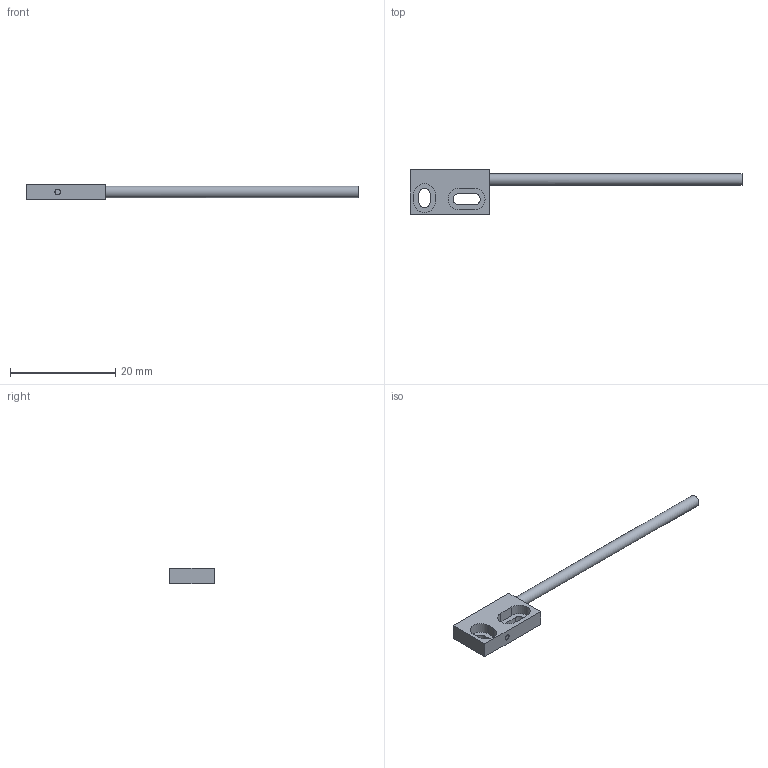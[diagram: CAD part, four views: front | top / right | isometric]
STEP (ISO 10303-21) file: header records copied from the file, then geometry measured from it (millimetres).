
FILE_DESCRIPTION(/* description */ ('STEP AP203'),/* implementation_level */ '2;1');
FILE_NAME(/* name */ 'P_MZ_FO_0190',/* time_stamp */ '2023-01-20T11:36:24+01:00',/* author */ ('License CC BY-ND 4.0'),/* organization */ ('CADENAS'),/* preprocessor_version */ 'ST-DEVELOPER v18.102',/* originating_system */ 'PARTsolutions',/* authorisation */ ' ');
FILE_SCHEMA (('CONFIG_CONTROL_DESIGN'));
Length unit declared in the file: millimetre
Products named in the file (1): P_MZ_FO_0190
Bounding box: 63 x 8.5 x 3 mm (x, y, z)
Volume: 419.1 mm3; surface area: 899.8 mm2
Topology: 1 solids, 1 shells, 43 faces, 118 edges, 79 vertices
Faces by surface type: plane 25, cylinder 16, torus 1, cone 1
Full cylindrical faces by diameter (mm): 1 x3, 1.1 x1, 2.2 x1
Entity records: 1654 total; most frequent: CARTESIAN_POINT 247, DIRECTION 224, ORIENTED_EDGE 212, EDGE_CURVE 106, AXIS2_PLACEMENT_3D 77, VERTEX_POINT 75, LINE 70, VECTOR 70
